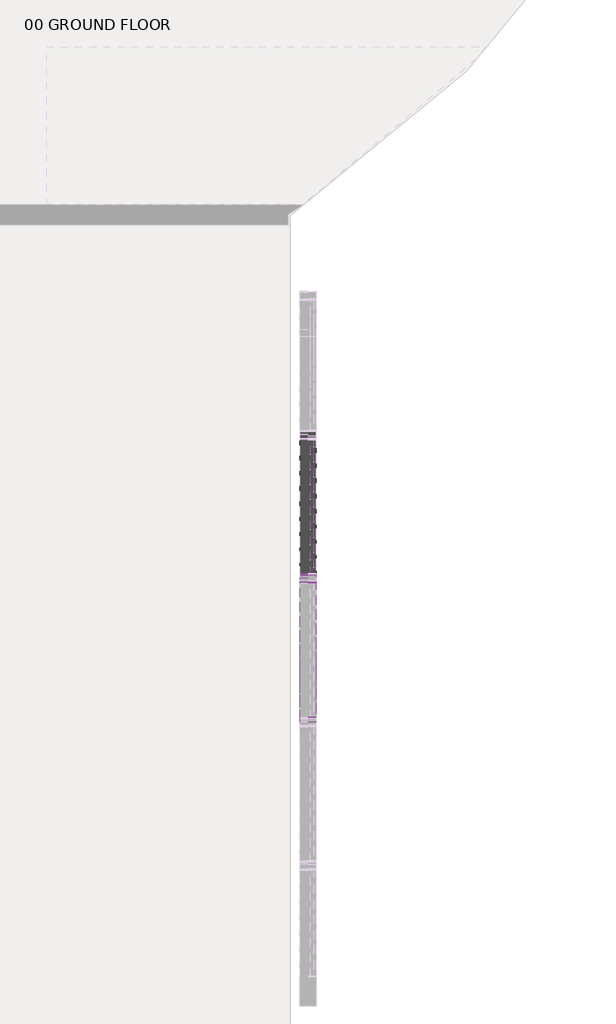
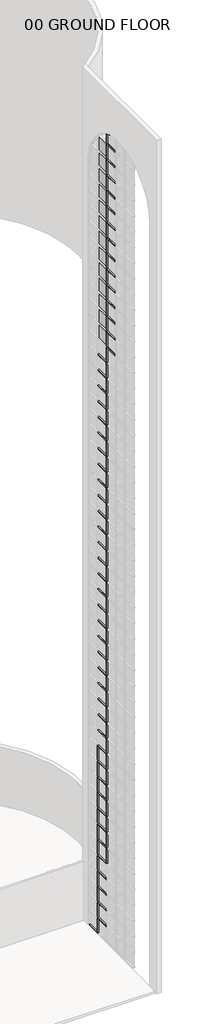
# One storey, part 21 of 33: 112 members, 13 plates.
"""IFC4 building model written with IfcOpenShell, lengths in millimetres."""

from ifc_helpers import new_model, si_unit, origin, place, context, project, spatial, transform, mapped, element, save
from components import member_c8ecf2e3, member_d1490fb0, member_2b49869a, member_3adf77c9, member_4c7c3d13, system_panel_glazed_0919b3b7

model = new_model("IFC4")

# Units and contexts
model_context = context("Model", 3, world=origin())
ifc_project = project(units=[si_unit("LENGTHUNIT", "METRE", prefix="MILLI")], contexts=[model_context])

# Site, building, storey
site = spatial("IfcSite", under=ifc_project)
building = spatial("IfcBuilding", under=site)
storey = spatial("IfcBuildingStorey", under=building, Name="00 GROUND FLOOR", Elevation=0.0)

# Members
placement = place(None, origin())
member_shape = member_c8ecf2e3(model_context)
element("IfcMember", 1, ObjectType="Rectangular Mullion : 2.5\" x 5\" rectangular", at=placement, inside=storey, context=model_context, shape_type="MappedRepresentation", body=[
    mapped(member_shape, transform((44184.4050515, 7589.6107141, 0.0), x_axis=(0.0, 0.0, -1.0), y_axis=(1.0, 0.0, 0.0), z_axis=(0.0, -1.0, 0.0))),
])
member_2_shape = member_d1490fb0(model_context)
element("IfcMember", 2, ObjectType="Rectangular Mullion : 2.5\" x 5\" rectangular", at=placement, inside=storey, context=model_context, shape_type="MappedRepresentation", body=[
    mapped(member_2_shape, transform((44184.4050515, 7526.1107141, 1219.2), x_axis=(0.0, 0.0, 1.0), y_axis=(1.0, 0.0, 0.0), z_axis=(0.0, 1.0, 0.0))),
])
element("IfcMember", 3, ObjectType="Rectangular Mullion : 2.5\" x 5\" rectangular", at=placement, inside=storey, context=model_context, shape_type="MappedRepresentation", body=[
    mapped(member_2_shape, transform((44184.4050515, 7526.1107141, 2438.4), x_axis=(0.0, 0.0, 1.0), y_axis=(1.0, 0.0, 0.0), z_axis=(0.0, 1.0, 0.0))),
])
element("IfcMember", 4, ObjectType="Rectangular Mullion : 2.5\" x 5\" rectangular", at=placement, inside=storey, context=model_context, shape_type="MappedRepresentation", body=[
    mapped(member_2_shape, transform((44184.4050515, 7526.1107141, 3657.6), x_axis=(0.0, 0.0, 1.0), y_axis=(1.0, 0.0, 0.0), z_axis=(0.0, 1.0, 0.0))),
])
element("IfcMember", 5, ObjectType="Rectangular Mullion : 2.5\" x 5\" rectangular", at=placement, inside=storey, context=model_context, shape_type="MappedRepresentation", body=[
    mapped(member_2_shape, transform((44184.4050515, 7526.1107141, 4876.8), x_axis=(0.0, 0.0, 1.0), y_axis=(1.0, 0.0, 0.0), z_axis=(0.0, 1.0, 0.0))),
])
element("IfcMember", 6, ObjectType="Rectangular Mullion : 2.5\" x 5\" rectangular", at=placement, inside=storey, context=model_context, shape_type="MappedRepresentation", body=[
    mapped(member_2_shape, transform((44184.4050515, 7526.1107141, 6096.0), x_axis=(0.0, 0.0, 1.0), y_axis=(1.0, 0.0, 0.0), z_axis=(0.0, 1.0, 0.0))),
])
element("IfcMember", 7, ObjectType="Rectangular Mullion : 2.5\" x 5\" rectangular", at=placement, inside=storey, context=model_context, shape_type="MappedRepresentation", body=[
    mapped(member_2_shape, transform((44184.4050515, 7526.1107141, 7315.2), x_axis=(0.0, 0.0, 1.0), y_axis=(1.0, 0.0, 0.0), z_axis=(0.0, 1.0, 0.0))),
])
element("IfcMember", 8, ObjectType="Rectangular Mullion : 2.5\" x 5\" rectangular", at=placement, inside=storey, context=model_context, shape_type="MappedRepresentation", body=[
    mapped(member_2_shape, transform((44184.4050515, 7526.1107141, 8534.4), x_axis=(0.0, 0.0, 1.0), y_axis=(1.0, 0.0, 0.0), z_axis=(0.0, 1.0, 0.0))),
])
element("IfcMember", 9, ObjectType="Rectangular Mullion : 2.5\" x 5\" rectangular", at=placement, inside=storey, context=model_context, shape_type="MappedRepresentation", body=[
    mapped(member_2_shape, transform((44184.4050515, 7526.1107141, 9753.6), x_axis=(0.0, 0.0, 1.0), y_axis=(1.0, 0.0, 0.0), z_axis=(0.0, 1.0, 0.0))),
])
element("IfcMember", 10, ObjectType="Rectangular Mullion : 2.5\" x 5\" rectangular", at=placement, inside=storey, context=model_context, shape_type="MappedRepresentation", body=[
    mapped(member_2_shape, transform((44184.4050515, 7526.1107141, 10972.8), x_axis=(0.0, 0.0, 1.0), y_axis=(1.0, 0.0, 0.0), z_axis=(0.0, 1.0, 0.0))),
])
element("IfcMember", 11, ObjectType="Rectangular Mullion : 2.5\" x 5\" rectangular", at=placement, inside=storey, context=model_context, shape_type="MappedRepresentation", body=[
    mapped(member_2_shape, transform((44184.4050515, 7526.1107141, 12192.0), x_axis=(0.0, 0.0, 1.0), y_axis=(1.0, 0.0, 0.0), z_axis=(0.0, 1.0, 0.0))),
])
element("IfcMember", 12, ObjectType="Rectangular Mullion : 2.5\" x 5\" rectangular", at=placement, inside=storey, context=model_context, shape_type="MappedRepresentation", body=[
    mapped(member_2_shape, transform((44184.4050515, 7526.1107141, 13411.2), x_axis=(0.0, 0.0, 1.0), y_axis=(1.0, 0.0, 0.0), z_axis=(0.0, 1.0, 0.0))),
])
element("IfcMember", 13, ObjectType="Rectangular Mullion : 2.5\" x 5\" rectangular", at=placement, inside=storey, context=model_context, shape_type="MappedRepresentation", body=[
    mapped(member_2_shape, transform((44184.4050515, 7526.1107141, 14630.4), x_axis=(0.0, 0.0, 1.0), y_axis=(1.0, 0.0, 0.0), z_axis=(0.0, 1.0, 0.0))),
])
element("IfcMember", 14, ObjectType="Rectangular Mullion : 2.5\" x 5\" rectangular", at=placement, inside=storey, context=model_context, shape_type="MappedRepresentation", body=[
    mapped(member_2_shape, transform((44184.4050515, 7526.1107141, 15849.6), x_axis=(0.0, 0.0, 1.0), y_axis=(1.0, 0.0, 0.0), z_axis=(0.0, 1.0, 0.0))),
])
element("IfcMember", 15, ObjectType="Rectangular Mullion : 2.5\" x 5\" rectangular", at=placement, inside=storey, context=model_context, shape_type="MappedRepresentation", body=[
    mapped(member_2_shape, transform((44184.4050515, 7526.1107141, 17068.8), x_axis=(0.0, 0.0, 1.0), y_axis=(1.0, 0.0, 0.0), z_axis=(0.0, 1.0, 0.0))),
])
element("IfcMember", 16, ObjectType="Rectangular Mullion : 2.5\" x 5\" rectangular", at=placement, inside=storey, context=model_context, shape_type="MappedRepresentation", body=[
    mapped(member_2_shape, transform((44184.4050515, 7526.1107141, 18288.0), x_axis=(0.0, 0.0, 1.0), y_axis=(1.0, 0.0, 0.0), z_axis=(0.0, 1.0, 0.0))),
])
element("IfcMember", 17, ObjectType="Rectangular Mullion : 2.5\" x 5\" rectangular", at=placement, inside=storey, context=model_context, shape_type="MappedRepresentation", body=[
    mapped(member_2_shape, transform((44184.4050515, 7526.1107141, 19507.2), x_axis=(0.0, 0.0, 1.0), y_axis=(1.0, 0.0, 0.0), z_axis=(0.0, 1.0, 0.0))),
])
element("IfcMember", 18, ObjectType="Rectangular Mullion : 2.5\" x 5\" rectangular", at=placement, inside=storey, context=model_context, shape_type="MappedRepresentation", body=[
    mapped(member_2_shape, transform((44184.4050515, 7526.1107141, 20726.4), x_axis=(0.0, 0.0, 1.0), y_axis=(1.0, 0.0, 0.0), z_axis=(0.0, 1.0, 0.0))),
])
element("IfcMember", 19, ObjectType="Rectangular Mullion : 2.5\" x 5\" rectangular", at=placement, inside=storey, context=model_context, shape_type="MappedRepresentation", body=[
    mapped(member_2_shape, transform((44184.4050515, 7526.1107141, 21945.6), x_axis=(0.0, 0.0, 1.0), y_axis=(1.0, 0.0, 0.0), z_axis=(0.0, 1.0, 0.0))),
])
element("IfcMember", 20, ObjectType="Rectangular Mullion : 2.5\" x 5\" rectangular", at=placement, inside=storey, context=model_context, shape_type="MappedRepresentation", body=[
    mapped(member_2_shape, transform((44184.4050515, 7526.1107141, 23164.8), x_axis=(0.0, 0.0, 1.0), y_axis=(1.0, 0.0, 0.0), z_axis=(0.0, 1.0, 0.0))),
])
element("IfcMember", 21, ObjectType="Rectangular Mullion : 2.5\" x 5\" rectangular", at=placement, inside=storey, context=model_context, shape_type="MappedRepresentation", body=[
    mapped(member_2_shape, transform((44184.4050515, 7526.1107141, 24384.0), x_axis=(0.0, 0.0, 1.0), y_axis=(1.0, 0.0, 0.0), z_axis=(0.0, 1.0, 0.0))),
])
element("IfcMember", 22, ObjectType="Rectangular Mullion : 2.5\" x 5\" rectangular", at=placement, inside=storey, context=model_context, shape_type="MappedRepresentation", body=[
    mapped(member_2_shape, transform((44184.4050515, 7526.1107141, 25603.2), x_axis=(0.0, 0.0, 1.0), y_axis=(1.0, 0.0, 0.0), z_axis=(0.0, 1.0, 0.0))),
])
element("IfcMember", 23, ObjectType="Rectangular Mullion : 2.5\" x 5\" rectangular", at=placement, inside=storey, context=model_context, shape_type="MappedRepresentation", body=[
    mapped(member_2_shape, transform((44184.4050515, 7526.1107141, 26822.4), x_axis=(0.0, 0.0, 1.0), y_axis=(1.0, 0.0, 0.0), z_axis=(0.0, 1.0, 0.0))),
])
element("IfcMember", 24, ObjectType="Rectangular Mullion : 2.5\" x 5\" rectangular", at=placement, inside=storey, context=model_context, shape_type="MappedRepresentation", body=[
    mapped(member_2_shape, transform((44184.4050515, 7526.1107141, 28041.6), x_axis=(0.0, 0.0, 1.0), y_axis=(1.0, 0.0, 0.0), z_axis=(0.0, 1.0, 0.0))),
])
element("IfcMember", 25, ObjectType="Rectangular Mullion : 2.5\" x 5\" rectangular", at=placement, inside=storey, context=model_context, shape_type="MappedRepresentation", body=[
    mapped(member_2_shape, transform((44184.4050515, 7526.1107141, 29260.8), x_axis=(0.0, 0.0, 1.0), y_axis=(1.0, 0.0, 0.0), z_axis=(0.0, 1.0, 0.0))),
])
element("IfcMember", 26, ObjectType="Rectangular Mullion : 2.5\" x 5\" rectangular", at=placement, inside=storey, context=model_context, shape_type="MappedRepresentation", body=[
    mapped(member_2_shape, transform((44184.4050515, 7526.1107141, 30480.0), x_axis=(0.0, 0.0, 1.0), y_axis=(1.0, 0.0, 0.0), z_axis=(0.0, 1.0, 0.0))),
])
element("IfcMember", 27, ObjectType="Rectangular Mullion : 2.5\" x 5\" rectangular", at=placement, inside=storey, context=model_context, shape_type="MappedRepresentation", body=[
    mapped(member_2_shape, transform((44184.4050515, 7526.1107141, 31699.2), x_axis=(0.0, 0.0, 1.0), y_axis=(1.0, 0.0, 0.0), z_axis=(0.0, 1.0, 0.0))),
])
element("IfcMember", 28, ObjectType="Rectangular Mullion : 2.5\" x 5\" rectangular", at=placement, inside=storey, context=model_context, shape_type="MappedRepresentation", body=[
    mapped(member_2_shape, transform((44184.4050515, 7526.1107141, 32918.4), x_axis=(0.0, 0.0, 1.0), y_axis=(1.0, 0.0, 0.0), z_axis=(0.0, 1.0, 0.0))),
])
element("IfcMember", 29, ObjectType="Rectangular Mullion : 2.5\" x 5\" rectangular", at=placement, inside=storey, context=model_context, shape_type="MappedRepresentation", body=[
    mapped(member_2_shape, transform((44184.4050515, 7526.1107141, 34137.6), x_axis=(0.0, 0.0, 1.0), y_axis=(1.0, 0.0, 0.0), z_axis=(0.0, 1.0, 0.0))),
])
element("IfcMember", 30, ObjectType="Rectangular Mullion : 2.5\" x 5\" rectangular", at=placement, inside=storey, context=model_context, shape_type="MappedRepresentation", body=[
    mapped(member_2_shape, transform((44184.4050515, 7526.1107141, 35356.8), x_axis=(0.0, 0.0, 1.0), y_axis=(1.0, 0.0, 0.0), z_axis=(0.0, 1.0, 0.0))),
])
element("IfcMember", 31, ObjectType="Rectangular Mullion : 2.5\" x 5\" rectangular", at=placement, inside=storey, context=model_context, shape_type="MappedRepresentation", body=[
    mapped(member_2_shape, transform((44184.4050515, 7526.1107141, 36576.0), x_axis=(0.0, 0.0, 1.0), y_axis=(1.0, 0.0, 0.0), z_axis=(0.0, 1.0, 0.0))),
])
element("IfcMember", 32, ObjectType="Rectangular Mullion : 2.5\" x 5\" rectangular", at=placement, inside=storey, context=model_context, shape_type="MappedRepresentation", body=[
    mapped(member_2_shape, transform((44184.4050515, 7526.1107141, 37795.2), x_axis=(0.0, 0.0, 1.0), y_axis=(1.0, 0.0, 0.0), z_axis=(0.0, 1.0, 0.0))),
])
element("IfcMember", 33, ObjectType="Rectangular Mullion : 2.5\" x 5\" rectangular", at=placement, inside=storey, context=model_context, shape_type="MappedRepresentation", body=[
    mapped(member_2_shape, transform((44184.4050515, 7526.1107141, 39014.4), x_axis=(0.0, 0.0, 1.0), y_axis=(1.0, 0.0, 0.0), z_axis=(0.0, 1.0, 0.0))),
])
element("IfcMember", 34, ObjectType="Rectangular Mullion : 2.5\" x 5\" rectangular", at=placement, inside=storey, context=model_context, shape_type="MappedRepresentation", body=[
    mapped(member_2_shape, transform((44184.4050515, 7526.1107141, 40233.6), x_axis=(0.0, 0.0, 1.0), y_axis=(1.0, 0.0, 0.0), z_axis=(0.0, 1.0, 0.0))),
])
element("IfcMember", 35, ObjectType="Rectangular Mullion : 2.5\" x 5\" rectangular", at=placement, inside=storey, context=model_context, shape_type="MappedRepresentation", body=[
    mapped(member_2_shape, transform((44184.4050515, 7526.1107141, 41452.8), x_axis=(0.0, 0.0, 1.0), y_axis=(1.0, 0.0, 0.0), z_axis=(0.0, 1.0, 0.0))),
])
element("IfcMember", 36, ObjectType="Rectangular Mullion : 2.5\" x 5\" rectangular", at=placement, inside=storey, context=model_context, shape_type="MappedRepresentation", body=[
    mapped(member_2_shape, transform((44184.4050515, 7526.1107141, 42672.0), x_axis=(0.0, 0.0, 1.0), y_axis=(1.0, 0.0, 0.0), z_axis=(0.0, 1.0, 0.0))),
])
element("IfcMember", 37, ObjectType="Rectangular Mullion : 2.5\" x 5\" rectangular", at=placement, inside=storey, context=model_context, shape_type="MappedRepresentation", body=[
    mapped(member_2_shape, transform((44184.4050515, 7526.1107141, 43891.2), x_axis=(0.0, 0.0, 1.0), y_axis=(1.0, 0.0, 0.0), z_axis=(0.0, 1.0, 0.0))),
])
element("IfcMember", 38, ObjectType="Rectangular Mullion : 2.5\" x 5\" rectangular", at=placement, inside=storey, context=model_context, shape_type="MappedRepresentation", body=[
    mapped(member_2_shape, transform((44184.4050515, 7526.1107141, 45110.4), x_axis=(0.0, 0.0, 1.0), y_axis=(1.0, 0.0, 0.0), z_axis=(0.0, 1.0, 0.0))),
])
element("IfcMember", 39, ObjectType="Rectangular Mullion : 2.5\" x 5\" rectangular", at=placement, inside=storey, context=model_context, shape_type="MappedRepresentation", body=[
    mapped(member_2_shape, transform((44184.4050515, 6393.9964284, 46329.6), x_axis=(0.0, 0.0, 1.0), y_axis=(1.0, 0.0, 0.0), z_axis=(0.0, 1.0, 0.0))),
])
element("IfcMember", 40, ObjectType="Rectangular Mullion : 2.5\" x 5\" rectangular", at=placement, inside=storey, context=model_context, shape_type="MappedRepresentation", body=[
    mapped(member_2_shape, transform((44184.4050515, 6393.9964284, 47548.8), x_axis=(0.0, 0.0, 1.0), y_axis=(1.0, 0.0, 0.0), z_axis=(0.0, 1.0, 0.0))),
])
element("IfcMember", 41, ObjectType="Rectangular Mullion : 2.5\" x 5\" rectangular", at=placement, inside=storey, context=model_context, shape_type="MappedRepresentation", body=[
    mapped(member_2_shape, transform((44184.4050515, 6393.9964284, 48768.0), x_axis=(0.0, 0.0, 1.0), y_axis=(1.0, 0.0, 0.0), z_axis=(0.0, 1.0, 0.0))),
])
element("IfcMember", 42, ObjectType="Rectangular Mullion : 2.5\" x 5\" rectangular", at=placement, inside=storey, context=model_context, shape_type="MappedRepresentation", body=[
    mapped(member_2_shape, transform((44184.4050515, 6393.9964284, 49987.2), x_axis=(0.0, 0.0, 1.0), y_axis=(1.0, 0.0, 0.0), z_axis=(0.0, 1.0, 0.0))),
])
element("IfcMember", 43, ObjectType="Rectangular Mullion : 2.5\" x 5\" rectangular", at=placement, inside=storey, context=model_context, shape_type="MappedRepresentation", body=[
    mapped(member_2_shape, transform((44184.4050515, 6393.9964284, 51206.4), x_axis=(0.0, 0.0, 1.0), y_axis=(1.0, 0.0, 0.0), z_axis=(0.0, 1.0, 0.0))),
])
element("IfcMember", 44, ObjectType="Rectangular Mullion : 2.5\" x 5\" rectangular", at=placement, inside=storey, context=model_context, shape_type="MappedRepresentation", body=[
    mapped(member_2_shape, transform((44184.4050515, 6393.9964284, 52425.6), x_axis=(0.0, 0.0, 1.0), y_axis=(1.0, 0.0, 0.0), z_axis=(0.0, 1.0, 0.0))),
])
element("IfcMember", 45, ObjectType="Rectangular Mullion : 2.5\" x 5\" rectangular", at=placement, inside=storey, context=model_context, shape_type="MappedRepresentation", body=[
    mapped(member_2_shape, transform((44184.4050515, 6393.9964284, 53644.8), x_axis=(0.0, 0.0, 1.0), y_axis=(1.0, 0.0, 0.0), z_axis=(0.0, 1.0, 0.0))),
])
element("IfcMember", 46, ObjectType="Rectangular Mullion : 2.5\" x 5\" rectangular", at=placement, inside=storey, context=model_context, shape_type="MappedRepresentation", body=[
    mapped(member_2_shape, transform((44184.4050515, 6393.9964284, 54864.0), x_axis=(0.0, 0.0, 1.0), y_axis=(1.0, 0.0, 0.0), z_axis=(0.0, 1.0, 0.0))),
])
element("IfcMember", 47, ObjectType="Rectangular Mullion : 2.5\" x 5\" rectangular", at=placement, inside=storey, context=model_context, shape_type="MappedRepresentation", body=[
    mapped(member_2_shape, transform((44184.4050515, 6393.9964284, 56083.2), x_axis=(0.0, 0.0, 1.0), y_axis=(1.0, 0.0, 0.0), z_axis=(0.0, 1.0, 0.0))),
])
element("IfcMember", 48, ObjectType="Rectangular Mullion : 2.5\" x 5\" rectangular", at=placement, inside=storey, context=model_context, shape_type="MappedRepresentation", body=[
    mapped(member_2_shape, transform((44184.4050515, 6393.9964284, 57302.4), x_axis=(0.0, 0.0, 1.0), y_axis=(1.0, 0.0, 0.0), z_axis=(0.0, 1.0, 0.0))),
])
element("IfcMember", 49, ObjectType="Rectangular Mullion : 2.5\" x 5\" rectangular", at=placement, inside=storey, context=model_context, shape_type="MappedRepresentation", body=[
    mapped(member_2_shape, transform((44184.4050515, 6393.9964284, 58521.6), x_axis=(0.0, 0.0, 1.0), y_axis=(1.0, 0.0, 0.0), z_axis=(0.0, 1.0, 0.0))),
])
element("IfcMember", 50, ObjectType="Rectangular Mullion : 2.5\" x 5\" rectangular", at=placement, inside=storey, context=model_context, shape_type="MappedRepresentation", body=[
    mapped(member_2_shape, transform((44184.4050515, 6393.9964284, 59740.8), x_axis=(0.0, 0.0, 1.0), y_axis=(1.0, 0.0, 0.0), z_axis=(0.0, 1.0, 0.0))),
])
element("IfcMember", 51, ObjectType="Rectangular Mullion : 2.5\" x 5\" rectangular", at=placement, inside=storey, context=model_context, shape_type="MappedRepresentation", body=[
    mapped(member_2_shape, transform((44184.4050515, 6393.9964284, 60960.0), x_axis=(0.0, 0.0, 1.0), y_axis=(1.0, 0.0, 0.0), z_axis=(0.0, 1.0, 0.0))),
])
element("IfcMember", 52, ObjectType="Rectangular Mullion : 2.5\" x 5\" rectangular", at=placement, inside=storey, context=model_context, shape_type="MappedRepresentation", body=[
    mapped(member_2_shape, transform((44184.4050515, 6393.9964284, 62179.2), x_axis=(0.0, 0.0, 1.0), y_axis=(1.0, 0.0, 0.0), z_axis=(0.0, 1.0, 0.0))),
])
member_3_shape = member_2b49869a(model_context)
element("IfcMember", 53, ObjectType="Rectangular Mullion : 2.5\" x 5\" rectangular", at=placement, inside=storey, context=model_context, shape_type="MappedRepresentation", body=[
    mapped(member_3_shape, transform((44184.4050515, 7557.8607141, 0.0), x_axis=(0.0, 1.0, 0.0), y_axis=(1.0, 0.0, 0.0), z_axis=(0.0, 0.0, -1.0))),
])
element("IfcMember", 54, ObjectType="Rectangular Mullion : 2.5\" x 5\" rectangular", at=placement, inside=storey, context=model_context, shape_type="MappedRepresentation", body=[
    mapped(member_3_shape, transform((44184.4050515, 7557.8607141, 1219.2), x_axis=(0.0, 1.0, 0.0), y_axis=(1.0, 0.0, 0.0), z_axis=(0.0, 0.0, -1.0))),
])
element("IfcMember", 55, ObjectType="Rectangular Mullion : 2.5\" x 5\" rectangular", at=placement, inside=storey, context=model_context, shape_type="MappedRepresentation", body=[
    mapped(member_3_shape, transform((44184.4050515, 7557.8607141, 2438.4), x_axis=(0.0, 1.0, 0.0), y_axis=(1.0, 0.0, 0.0), z_axis=(0.0, 0.0, -1.0))),
])
element("IfcMember", 56, ObjectType="Rectangular Mullion : 2.5\" x 5\" rectangular", at=placement, inside=storey, context=model_context, shape_type="MappedRepresentation", body=[
    mapped(member_3_shape, transform((44184.4050515, 7557.8607141, 3657.6), x_axis=(0.0, 1.0, 0.0), y_axis=(1.0, 0.0, 0.0), z_axis=(0.0, 0.0, -1.0))),
])
element("IfcMember", 57, ObjectType="Rectangular Mullion : 2.5\" x 5\" rectangular", at=placement, inside=storey, context=model_context, shape_type="MappedRepresentation", body=[
    mapped(member_3_shape, transform((44184.4050515, 7557.8607141, 4876.8), x_axis=(0.0, 1.0, 0.0), y_axis=(1.0, 0.0, 0.0), z_axis=(0.0, 0.0, -1.0))),
])
element("IfcMember", 58, ObjectType="Rectangular Mullion : 2.5\" x 5\" rectangular", at=placement, inside=storey, context=model_context, shape_type="MappedRepresentation", body=[
    mapped(member_3_shape, transform((44184.4050515, 6425.7464284, 6096.0), x_axis=(0.0, 1.0, 0.0), y_axis=(1.0, 0.0, 0.0), z_axis=(0.0, 0.0, -1.0))),
])
element("IfcMember", 59, ObjectType="Rectangular Mullion : 2.5\" x 5\" rectangular", at=placement, inside=storey, context=model_context, shape_type="MappedRepresentation", body=[
    mapped(member_3_shape, transform((44184.4050515, 7557.8607141, 6096.0), x_axis=(0.0, 1.0, 0.0), y_axis=(1.0, 0.0, 0.0), z_axis=(0.0, 0.0, -1.0))),
])
element("IfcMember", 60, ObjectType="Rectangular Mullion : 2.5\" x 5\" rectangular", at=placement, inside=storey, context=model_context, shape_type="MappedRepresentation", body=[
    mapped(member_3_shape, transform((44184.4050515, 6425.7464284, 7315.2), x_axis=(0.0, 1.0, 0.0), y_axis=(1.0, 0.0, 0.0), z_axis=(0.0, 0.0, -1.0))),
])
element("IfcMember", 61, ObjectType="Rectangular Mullion : 2.5\" x 5\" rectangular", at=placement, inside=storey, context=model_context, shape_type="MappedRepresentation", body=[
    mapped(member_3_shape, transform((44184.4050515, 7557.8607141, 7315.2), x_axis=(0.0, 1.0, 0.0), y_axis=(1.0, 0.0, 0.0), z_axis=(0.0, 0.0, -1.0))),
])
element("IfcMember", 62, ObjectType="Rectangular Mullion : 2.5\" x 5\" rectangular", at=placement, inside=storey, context=model_context, shape_type="MappedRepresentation", body=[
    mapped(member_3_shape, transform((44184.4050515, 6425.7464284, 8534.4), x_axis=(0.0, 1.0, 0.0), y_axis=(1.0, 0.0, 0.0), z_axis=(0.0, 0.0, -1.0))),
])
element("IfcMember", 63, ObjectType="Rectangular Mullion : 2.5\" x 5\" rectangular", at=placement, inside=storey, context=model_context, shape_type="MappedRepresentation", body=[
    mapped(member_3_shape, transform((44184.4050515, 7557.8607141, 8534.4), x_axis=(0.0, 1.0, 0.0), y_axis=(1.0, 0.0, 0.0), z_axis=(0.0, 0.0, -1.0))),
])
element("IfcMember", 64, ObjectType="Rectangular Mullion : 2.5\" x 5\" rectangular", at=placement, inside=storey, context=model_context, shape_type="MappedRepresentation", body=[
    mapped(member_3_shape, transform((44184.4050515, 6425.7464284, 9753.6), x_axis=(0.0, 1.0, 0.0), y_axis=(1.0, 0.0, 0.0), z_axis=(0.0, 0.0, -1.0))),
])
element("IfcMember", 65, ObjectType="Rectangular Mullion : 2.5\" x 5\" rectangular", at=placement, inside=storey, context=model_context, shape_type="MappedRepresentation", body=[
    mapped(member_3_shape, transform((44184.4050515, 7557.8607141, 9753.6), x_axis=(0.0, 1.0, 0.0), y_axis=(1.0, 0.0, 0.0), z_axis=(0.0, 0.0, -1.0))),
])
element("IfcMember", 66, ObjectType="Rectangular Mullion : 2.5\" x 5\" rectangular", at=placement, inside=storey, context=model_context, shape_type="MappedRepresentation", body=[
    mapped(member_3_shape, transform((44184.4050515, 6425.7464284, 10972.8), x_axis=(0.0, 1.0, 0.0), y_axis=(1.0, 0.0, 0.0), z_axis=(0.0, 0.0, -1.0))),
])
element("IfcMember", 67, ObjectType="Rectangular Mullion : 2.5\" x 5\" rectangular", at=placement, inside=storey, context=model_context, shape_type="MappedRepresentation", body=[
    mapped(member_3_shape, transform((44184.4050515, 7557.8607141, 10972.8), x_axis=(0.0, 1.0, 0.0), y_axis=(1.0, 0.0, 0.0), z_axis=(0.0, 0.0, -1.0))),
])
element("IfcMember", 68, ObjectType="Rectangular Mullion : 2.5\" x 5\" rectangular", at=placement, inside=storey, context=model_context, shape_type="MappedRepresentation", body=[
    mapped(member_3_shape, transform((44184.4050515, 6425.7464284, 12192.0), x_axis=(0.0, 1.0, 0.0), y_axis=(1.0, 0.0, 0.0), z_axis=(0.0, 0.0, -1.0))),
])
element("IfcMember", 69, ObjectType="Rectangular Mullion : 2.5\" x 5\" rectangular", at=placement, inside=storey, context=model_context, shape_type="MappedRepresentation", body=[
    mapped(member_3_shape, transform((44184.4050515, 7557.8607141, 12192.0), x_axis=(0.0, 1.0, 0.0), y_axis=(1.0, 0.0, 0.0), z_axis=(0.0, 0.0, -1.0))),
])
element("IfcMember", 70, ObjectType="Rectangular Mullion : 2.5\" x 5\" rectangular", at=placement, inside=storey, context=model_context, shape_type="MappedRepresentation", body=[
    mapped(member_3_shape, transform((44184.4050515, 6425.7464284, 13411.2), x_axis=(0.0, 1.0, 0.0), y_axis=(1.0, 0.0, 0.0), z_axis=(0.0, 0.0, -1.0))),
])
element("IfcMember", 71, ObjectType="Rectangular Mullion : 2.5\" x 5\" rectangular", at=placement, inside=storey, context=model_context, shape_type="MappedRepresentation", body=[
    mapped(member_3_shape, transform((44184.4050515, 7557.8607141, 13411.2), x_axis=(0.0, 1.0, 0.0), y_axis=(1.0, 0.0, 0.0), z_axis=(0.0, 0.0, -1.0))),
])
element("IfcMember", 72, ObjectType="Rectangular Mullion : 2.5\" x 5\" rectangular", at=placement, inside=storey, context=model_context, shape_type="MappedRepresentation", body=[
    mapped(member_3_shape, transform((44184.4050515, 6425.7464284, 14630.4), x_axis=(0.0, 1.0, 0.0), y_axis=(1.0, 0.0, 0.0), z_axis=(0.0, 0.0, -1.0))),
])
element("IfcMember", 73, ObjectType="Rectangular Mullion : 2.5\" x 5\" rectangular", at=placement, inside=storey, context=model_context, shape_type="MappedRepresentation", body=[
    mapped(member_3_shape, transform((44184.4050515, 6425.7464284, 15849.6), x_axis=(0.0, 1.0, 0.0), y_axis=(1.0, 0.0, 0.0), z_axis=(0.0, 0.0, -1.0))),
])
element("IfcMember", 74, ObjectType="Rectangular Mullion : 2.5\" x 5\" rectangular", at=placement, inside=storey, context=model_context, shape_type="MappedRepresentation", body=[
    mapped(member_3_shape, transform((44184.4050515, 6425.7464284, 17068.8), x_axis=(0.0, 1.0, 0.0), y_axis=(1.0, 0.0, 0.0), z_axis=(0.0, 0.0, -1.0))),
])
element("IfcMember", 75, ObjectType="Rectangular Mullion : 2.5\" x 5\" rectangular", at=placement, inside=storey, context=model_context, shape_type="MappedRepresentation", body=[
    mapped(member_3_shape, transform((44184.4050515, 6425.7464284, 18288.0), x_axis=(0.0, 1.0, 0.0), y_axis=(1.0, 0.0, 0.0), z_axis=(0.0, 0.0, -1.0))),
])
element("IfcMember", 76, ObjectType="Rectangular Mullion : 2.5\" x 5\" rectangular", at=placement, inside=storey, context=model_context, shape_type="MappedRepresentation", body=[
    mapped(member_3_shape, transform((44184.4050515, 6425.7464284, 19507.2), x_axis=(0.0, 1.0, 0.0), y_axis=(1.0, 0.0, 0.0), z_axis=(0.0, 0.0, -1.0))),
])
element("IfcMember", 77, ObjectType="Rectangular Mullion : 2.5\" x 5\" rectangular", at=placement, inside=storey, context=model_context, shape_type="MappedRepresentation", body=[
    mapped(member_3_shape, transform((44184.4050515, 6425.7464284, 20726.4), x_axis=(0.0, 1.0, 0.0), y_axis=(1.0, 0.0, 0.0), z_axis=(0.0, 0.0, -1.0))),
])
element("IfcMember", 78, ObjectType="Rectangular Mullion : 2.5\" x 5\" rectangular", at=placement, inside=storey, context=model_context, shape_type="MappedRepresentation", body=[
    mapped(member_3_shape, transform((44184.4050515, 6425.7464284, 21945.6), x_axis=(0.0, 1.0, 0.0), y_axis=(1.0, 0.0, 0.0), z_axis=(0.0, 0.0, -1.0))),
])
element("IfcMember", 79, ObjectType="Rectangular Mullion : 2.5\" x 5\" rectangular", at=placement, inside=storey, context=model_context, shape_type="MappedRepresentation", body=[
    mapped(member_3_shape, transform((44184.4050515, 6425.7464284, 23164.8), x_axis=(0.0, 1.0, 0.0), y_axis=(1.0, 0.0, 0.0), z_axis=(0.0, 0.0, -1.0))),
])
element("IfcMember", 80, ObjectType="Rectangular Mullion : 2.5\" x 5\" rectangular", at=placement, inside=storey, context=model_context, shape_type="MappedRepresentation", body=[
    mapped(member_3_shape, transform((44184.4050515, 6425.7464284, 24384.0), x_axis=(0.0, 1.0, 0.0), y_axis=(1.0, 0.0, 0.0), z_axis=(0.0, 0.0, -1.0))),
])
element("IfcMember", 81, ObjectType="Rectangular Mullion : 2.5\" x 5\" rectangular", at=placement, inside=storey, context=model_context, shape_type="MappedRepresentation", body=[
    mapped(member_3_shape, transform((44184.4050515, 6425.7464284, 25603.2), x_axis=(0.0, 1.0, 0.0), y_axis=(1.0, 0.0, 0.0), z_axis=(0.0, 0.0, -1.0))),
])
element("IfcMember", 82, ObjectType="Rectangular Mullion : 2.5\" x 5\" rectangular", at=placement, inside=storey, context=model_context, shape_type="MappedRepresentation", body=[
    mapped(member_3_shape, transform((44184.4050515, 6425.7464284, 26822.4), x_axis=(0.0, 1.0, 0.0), y_axis=(1.0, 0.0, 0.0), z_axis=(0.0, 0.0, -1.0))),
])
element("IfcMember", 83, ObjectType="Rectangular Mullion : 2.5\" x 5\" rectangular", at=placement, inside=storey, context=model_context, shape_type="MappedRepresentation", body=[
    mapped(member_3_shape, transform((44184.4050515, 6425.7464284, 28041.6), x_axis=(0.0, 1.0, 0.0), y_axis=(1.0, 0.0, 0.0), z_axis=(0.0, 0.0, -1.0))),
])
element("IfcMember", 84, ObjectType="Rectangular Mullion : 2.5\" x 5\" rectangular", at=placement, inside=storey, context=model_context, shape_type="MappedRepresentation", body=[
    mapped(member_3_shape, transform((44184.4050515, 6425.7464284, 29260.8), x_axis=(0.0, 1.0, 0.0), y_axis=(1.0, 0.0, 0.0), z_axis=(0.0, 0.0, -1.0))),
])
element("IfcMember", 85, ObjectType="Rectangular Mullion : 2.5\" x 5\" rectangular", at=placement, inside=storey, context=model_context, shape_type="MappedRepresentation", body=[
    mapped(member_3_shape, transform((44184.4050515, 6425.7464284, 30480.0), x_axis=(0.0, 1.0, 0.0), y_axis=(1.0, 0.0, 0.0), z_axis=(0.0, 0.0, -1.0))),
])
element("IfcMember", 86, ObjectType="Rectangular Mullion : 2.5\" x 5\" rectangular", at=placement, inside=storey, context=model_context, shape_type="MappedRepresentation", body=[
    mapped(member_3_shape, transform((44184.4050515, 6425.7464284, 31699.2), x_axis=(0.0, 1.0, 0.0), y_axis=(1.0, 0.0, 0.0), z_axis=(0.0, 0.0, -1.0))),
])
element("IfcMember", 87, ObjectType="Rectangular Mullion : 2.5\" x 5\" rectangular", at=placement, inside=storey, context=model_context, shape_type="MappedRepresentation", body=[
    mapped(member_3_shape, transform((44184.4050515, 6425.7464284, 32918.4), x_axis=(0.0, 1.0, 0.0), y_axis=(1.0, 0.0, 0.0), z_axis=(0.0, 0.0, -1.0))),
])
element("IfcMember", 88, ObjectType="Rectangular Mullion : 2.5\" x 5\" rectangular", at=placement, inside=storey, context=model_context, shape_type="MappedRepresentation", body=[
    mapped(member_3_shape, transform((44184.4050515, 6425.7464284, 34137.6), x_axis=(0.0, 1.0, 0.0), y_axis=(1.0, 0.0, 0.0), z_axis=(0.0, 0.0, -1.0))),
])
element("IfcMember", 89, ObjectType="Rectangular Mullion : 2.5\" x 5\" rectangular", at=placement, inside=storey, context=model_context, shape_type="MappedRepresentation", body=[
    mapped(member_3_shape, transform((44184.4050515, 6425.7464284, 35356.8), x_axis=(0.0, 1.0, 0.0), y_axis=(1.0, 0.0, 0.0), z_axis=(0.0, 0.0, -1.0))),
])
element("IfcMember", 90, ObjectType="Rectangular Mullion : 2.5\" x 5\" rectangular", at=placement, inside=storey, context=model_context, shape_type="MappedRepresentation", body=[
    mapped(member_3_shape, transform((44184.4050515, 6425.7464284, 36576.0), x_axis=(0.0, 1.0, 0.0), y_axis=(1.0, 0.0, 0.0), z_axis=(0.0, 0.0, -1.0))),
])
element("IfcMember", 91, ObjectType="Rectangular Mullion : 2.5\" x 5\" rectangular", at=placement, inside=storey, context=model_context, shape_type="MappedRepresentation", body=[
    mapped(member_3_shape, transform((44184.4050515, 6425.7464284, 37795.2), x_axis=(0.0, 1.0, 0.0), y_axis=(1.0, 0.0, 0.0), z_axis=(0.0, 0.0, -1.0))),
])
element("IfcMember", 92, ObjectType="Rectangular Mullion : 2.5\" x 5\" rectangular", at=placement, inside=storey, context=model_context, shape_type="MappedRepresentation", body=[
    mapped(member_3_shape, transform((44184.4050515, 6425.7464284, 39014.4), x_axis=(0.0, 1.0, 0.0), y_axis=(1.0, 0.0, 0.0), z_axis=(0.0, 0.0, -1.0))),
])
element("IfcMember", 93, ObjectType="Rectangular Mullion : 2.5\" x 5\" rectangular", at=placement, inside=storey, context=model_context, shape_type="MappedRepresentation", body=[
    mapped(member_3_shape, transform((44184.4050515, 6425.7464284, 40233.6), x_axis=(0.0, 1.0, 0.0), y_axis=(1.0, 0.0, 0.0), z_axis=(0.0, 0.0, -1.0))),
])
element("IfcMember", 94, ObjectType="Rectangular Mullion : 2.5\" x 5\" rectangular", at=placement, inside=storey, context=model_context, shape_type="MappedRepresentation", body=[
    mapped(member_3_shape, transform((44184.4050515, 6425.7464284, 41452.8), x_axis=(0.0, 1.0, 0.0), y_axis=(1.0, 0.0, 0.0), z_axis=(0.0, 0.0, -1.0))),
])
element("IfcMember", 95, ObjectType="Rectangular Mullion : 2.5\" x 5\" rectangular", at=placement, inside=storey, context=model_context, shape_type="MappedRepresentation", body=[
    mapped(member_3_shape, transform((44184.4050515, 6425.7464284, 42672.0), x_axis=(0.0, 1.0, 0.0), y_axis=(1.0, 0.0, 0.0), z_axis=(0.0, 0.0, -1.0))),
])
element("IfcMember", 96, ObjectType="Rectangular Mullion : 2.5\" x 5\" rectangular", at=placement, inside=storey, context=model_context, shape_type="MappedRepresentation", body=[
    mapped(member_3_shape, transform((44184.4050515, 6425.7464284, 43891.2), x_axis=(0.0, 1.0, 0.0), y_axis=(1.0, 0.0, 0.0), z_axis=(0.0, 0.0, -1.0))),
])
element("IfcMember", 97, ObjectType="Rectangular Mullion : 2.5\" x 5\" rectangular", at=placement, inside=storey, context=model_context, shape_type="MappedRepresentation", body=[
    mapped(member_3_shape, transform((44184.4050515, 6425.7464284, 45110.4), x_axis=(0.0, 1.0, 0.0), y_axis=(1.0, 0.0, 0.0), z_axis=(0.0, 0.0, -1.0))),
])
element("IfcMember", 98, ObjectType="Rectangular Mullion : 2.5\" x 5\" rectangular", at=placement, inside=storey, context=model_context, shape_type="MappedRepresentation", body=[
    mapped(member_3_shape, transform((44184.4050515, 6425.7464284, 46329.6), x_axis=(0.0, 1.0, 0.0), y_axis=(1.0, 0.0, 0.0), z_axis=(0.0, 0.0, -1.0))),
])
element("IfcMember", 99, ObjectType="Rectangular Mullion : 2.5\" x 5\" rectangular", at=placement, inside=storey, context=model_context, shape_type="MappedRepresentation", body=[
    mapped(member_3_shape, transform((44184.4050515, 6425.7464284, 47548.8), x_axis=(0.0, 1.0, 0.0), y_axis=(1.0, 0.0, 0.0), z_axis=(0.0, 0.0, -1.0))),
])
element("IfcMember", 100, ObjectType="Rectangular Mullion : 2.5\" x 5\" rectangular", at=placement, inside=storey, context=model_context, shape_type="MappedRepresentation", body=[
    mapped(member_3_shape, transform((44184.4050515, 6425.7464284, 48768.0), x_axis=(0.0, 1.0, 0.0), y_axis=(1.0, 0.0, 0.0), z_axis=(0.0, 0.0, -1.0))),
])
element("IfcMember", 101, ObjectType="Rectangular Mullion : 2.5\" x 5\" rectangular", at=placement, inside=storey, context=model_context, shape_type="MappedRepresentation", body=[
    mapped(member_3_shape, transform((44184.4050515, 6425.7464284, 49987.2), x_axis=(0.0, 1.0, 0.0), y_axis=(1.0, 0.0, 0.0), z_axis=(0.0, 0.0, -1.0))),
])
element("IfcMember", 102, ObjectType="Rectangular Mullion : 2.5\" x 5\" rectangular", at=placement, inside=storey, context=model_context, shape_type="MappedRepresentation", body=[
    mapped(member_3_shape, transform((44184.4050515, 6425.7464284, 51206.4), x_axis=(0.0, 1.0, 0.0), y_axis=(1.0, 0.0, 0.0), z_axis=(0.0, 0.0, -1.0))),
])
element("IfcMember", 103, ObjectType="Rectangular Mullion : 2.5\" x 5\" rectangular", at=placement, inside=storey, context=model_context, shape_type="MappedRepresentation", body=[
    mapped(member_3_shape, transform((44184.4050515, 6425.7464284, 52425.6), x_axis=(0.0, 1.0, 0.0), y_axis=(1.0, 0.0, 0.0), z_axis=(0.0, 0.0, -1.0))),
])
element("IfcMember", 104, ObjectType="Rectangular Mullion : 2.5\" x 5\" rectangular", at=placement, inside=storey, context=model_context, shape_type="MappedRepresentation", body=[
    mapped(member_3_shape, transform((44184.4050515, 6425.7464284, 53644.8), x_axis=(0.0, 1.0, 0.0), y_axis=(1.0, 0.0, 0.0), z_axis=(0.0, 0.0, -1.0))),
])
element("IfcMember", 105, ObjectType="Rectangular Mullion : 2.5\" x 5\" rectangular", at=placement, inside=storey, context=model_context, shape_type="MappedRepresentation", body=[
    mapped(member_3_shape, transform((44184.4050515, 6425.7464284, 54864.0), x_axis=(0.0, 1.0, 0.0), y_axis=(1.0, 0.0, 0.0), z_axis=(0.0, 0.0, -1.0))),
])
element("IfcMember", 106, ObjectType="Rectangular Mullion : 2.5\" x 5\" rectangular", at=placement, inside=storey, context=model_context, shape_type="MappedRepresentation", body=[
    mapped(member_3_shape, transform((44184.4050515, 6425.7464284, 56083.2), x_axis=(0.0, 1.0, 0.0), y_axis=(1.0, 0.0, 0.0), z_axis=(0.0, 0.0, -1.0))),
])
element("IfcMember", 107, ObjectType="Rectangular Mullion : 2.5\" x 5\" rectangular", at=placement, inside=storey, context=model_context, shape_type="MappedRepresentation", body=[
    mapped(member_3_shape, transform((44184.4050515, 6425.7464284, 57302.4), x_axis=(0.0, 1.0, 0.0), y_axis=(1.0, 0.0, 0.0), z_axis=(0.0, 0.0, -1.0))),
])
element("IfcMember", 108, ObjectType="Rectangular Mullion : 2.5\" x 5\" rectangular", at=placement, inside=storey, context=model_context, shape_type="MappedRepresentation", body=[
    mapped(member_3_shape, transform((44184.4050515, 6425.7464284, 58521.6), x_axis=(0.0, 1.0, 0.0), y_axis=(1.0, 0.0, 0.0), z_axis=(0.0, 0.0, -1.0))),
])
element("IfcMember", 109, ObjectType="Rectangular Mullion : 2.5\" x 5\" rectangular", at=placement, inside=storey, context=model_context, shape_type="MappedRepresentation", body=[
    mapped(member_3_shape, transform((44184.4050515, 6425.7464284, 59740.8), x_axis=(0.0, 1.0, 0.0), y_axis=(1.0, 0.0, 0.0), z_axis=(0.0, 0.0, -1.0))),
])
element("IfcMember", 110, ObjectType="Rectangular Mullion : 2.5\" x 5\" rectangular", at=placement, inside=storey, context=model_context, shape_type="MappedRepresentation", body=[
    mapped(member_3_shape, transform((44184.4050515, 6425.7464284, 60960.0), x_axis=(0.0, 1.0, 0.0), y_axis=(1.0, 0.0, 0.0), z_axis=(0.0, 0.0, -1.0))),
])
member_4_shape = member_3adf77c9(model_context)
element("IfcMember", 111, ObjectType="Rectangular Mullion : 2.5\" x 5\" rectangular", at=placement, inside=storey, context=model_context, shape_type="MappedRepresentation", body=[
    mapped(member_4_shape, transform((44184.4050515, 6425.7464284, 63016.0597145), x_axis=(0.0, 0.4285714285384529, 0.903507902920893), y_axis=(1.0, 0.0, 0.0), z_axis=(0.0, 0.903507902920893, -0.4285714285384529))),
])
member_5_shape = member_4c7c3d13(model_context)
element("IfcMember", 112, ObjectType="Rectangular Mullion : 2.5\" x 5\" rectangular", at=placement, inside=storey, context=model_context, shape_type="MappedRepresentation", body=[
    mapped(member_5_shape, transform((44184.4050515, 6425.7464284, 62179.2), x_axis=(0.0, 1.0, 0.0), y_axis=(1.0, 0.0, 0.0), z_axis=(0.0, 0.0, -1.0))),
])

# Plates
system_panel_glazed_shape = system_panel_glazed_0919b3b7(model_context)
element("IfcPlate", 113, ObjectType="System Panel : Glazed", at=placement, inside=storey, context=model_context, shape_type="MappedRepresentation", body=[
    mapped(system_panel_glazed_shape, transform((44184.4050515, 6991.8035713, 46361.35), x_axis=(0.0, 1.0, 0.0), y_axis=(-1.0, 0.0, 0.0), z_axis=(0.0, 0.0, 1.0))),
])
element("IfcPlate", 114, ObjectType="System Panel : Glazed", at=placement, inside=storey, context=model_context, shape_type="MappedRepresentation", body=[
    mapped(system_panel_glazed_shape, transform((44184.4050515, 6991.8035713, 47580.55), x_axis=(0.0, 1.0, 0.0), y_axis=(-1.0, 0.0, 0.0), z_axis=(0.0, 0.0, 1.0))),
])
element("IfcPlate", 115, ObjectType="System Panel : Glazed", at=placement, inside=storey, context=model_context, shape_type="MappedRepresentation", body=[
    mapped(system_panel_glazed_shape, transform((44184.4050515, 6991.8035713, 48799.75), x_axis=(0.0, 1.0, 0.0), y_axis=(-1.0, 0.0, 0.0), z_axis=(0.0, 0.0, 1.0))),
])
element("IfcPlate", 116, ObjectType="System Panel : Glazed", at=placement, inside=storey, context=model_context, shape_type="MappedRepresentation", body=[
    mapped(system_panel_glazed_shape, transform((44184.4050515, 6991.8035713, 50018.95), x_axis=(0.0, 1.0, 0.0), y_axis=(-1.0, 0.0, 0.0), z_axis=(0.0, 0.0, 1.0))),
])
element("IfcPlate", 117, ObjectType="System Panel : Glazed", at=placement, inside=storey, context=model_context, shape_type="MappedRepresentation", body=[
    mapped(system_panel_glazed_shape, transform((44184.4050515, 6991.8035713, 51238.15), x_axis=(0.0, 1.0, 0.0), y_axis=(-1.0, 0.0, 0.0), z_axis=(0.0, 0.0, 1.0))),
])
element("IfcPlate", 118, ObjectType="System Panel : Glazed", at=placement, inside=storey, context=model_context, shape_type="MappedRepresentation", body=[
    mapped(system_panel_glazed_shape, transform((44184.4050515, 6991.8035713, 52457.35), x_axis=(0.0, 1.0, 0.0), y_axis=(-1.0, 0.0, 0.0), z_axis=(0.0, 0.0, 1.0))),
])
element("IfcPlate", 119, ObjectType="System Panel : Glazed", at=placement, inside=storey, context=model_context, shape_type="MappedRepresentation", body=[
    mapped(system_panel_glazed_shape, transform((44184.4050515, 6991.8035713, 53676.55), x_axis=(0.0, 1.0, 0.0), y_axis=(-1.0, 0.0, 0.0), z_axis=(0.0, 0.0, 1.0))),
])
element("IfcPlate", 120, ObjectType="System Panel : Glazed", at=placement, inside=storey, context=model_context, shape_type="MappedRepresentation", body=[
    mapped(system_panel_glazed_shape, transform((44184.4050515, 6991.8035713, 54895.75), x_axis=(0.0, 1.0, 0.0), y_axis=(-1.0, 0.0, 0.0), z_axis=(0.0, 0.0, 1.0))),
])
element("IfcPlate", 121, ObjectType="System Panel : Glazed", at=placement, inside=storey, context=model_context, shape_type="MappedRepresentation", body=[
    mapped(system_panel_glazed_shape, transform((44184.4050515, 6991.8035713, 56114.95), x_axis=(0.0, 1.0, 0.0), y_axis=(-1.0, 0.0, 0.0), z_axis=(0.0, 0.0, 1.0))),
])
element("IfcPlate", 122, ObjectType="System Panel : Glazed", at=placement, inside=storey, context=model_context, shape_type="MappedRepresentation", body=[
    mapped(system_panel_glazed_shape, transform((44184.4050515, 6991.8035713, 57334.15), x_axis=(0.0, 1.0, 0.0), y_axis=(-1.0, 0.0, 0.0), z_axis=(0.0, 0.0, 1.0))),
])
element("IfcPlate", 123, ObjectType="System Panel : Glazed", at=placement, inside=storey, context=model_context, shape_type="MappedRepresentation", body=[
    mapped(system_panel_glazed_shape, transform((44184.4050515, 6991.8035713, 58553.35), x_axis=(0.0, 1.0, 0.0), y_axis=(-1.0, 0.0, 0.0), z_axis=(0.0, 0.0, 1.0))),
])
element("IfcPlate", 124, ObjectType="System Panel : Glazed", at=placement, inside=storey, context=model_context, shape_type="MappedRepresentation", body=[
    mapped(system_panel_glazed_shape, transform((44184.4050515, 6991.8035713, 59772.55), x_axis=(0.0, 1.0, 0.0), y_axis=(-1.0, 0.0, 0.0), z_axis=(0.0, 0.0, 1.0))),
])
element("IfcPlate", 125, ObjectType="System Panel : Glazed", at=placement, inside=storey, context=model_context, shape_type="MappedRepresentation", body=[
    mapped(system_panel_glazed_shape, transform((44184.4050515, 6991.8035713, 60991.75), x_axis=(0.0, 1.0, 0.0), y_axis=(-1.0, 0.0, 0.0), z_axis=(0.0, 0.0, 1.0))),
])

save(model, "model.ifc")
